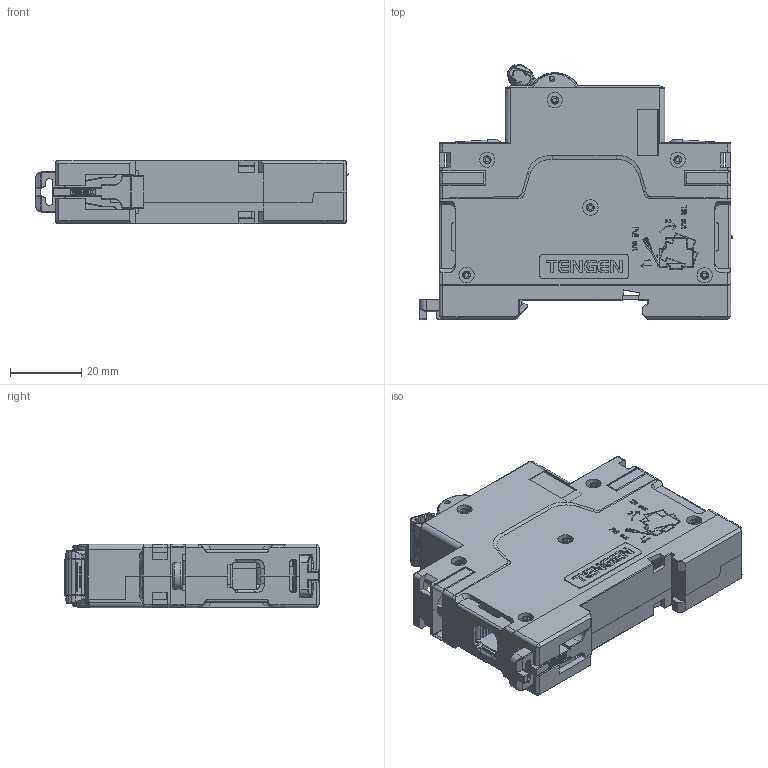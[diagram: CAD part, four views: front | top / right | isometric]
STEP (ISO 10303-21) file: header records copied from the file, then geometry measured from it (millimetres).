
FILE_DESCRIPTION((''),'2;1');
FILE_NAME('TENGEN_TGB3-63L_1P_ASM','2024-07-19T16:02:41',('Administrator'),(''),'CREO PARAMETRIC BY PTC INC, 2020354','CREO PARAMETRIC BY PTC INC, 2020354','');
FILE_SCHEMA(('CONFIG_CONTROL_DESIGN'));
Products named in the file (4): 2TZD_250_6081_SW0003_1_1_AF0; 2TZD_250_6081_SW0003_1_2; 2TZD_250_6081_SW0003_1_AF0_ASM; TENGEN_TGB3-63L_1P_ASM
Assembly tree (3 placements, depth 3):
  TENGEN_TGB3-63L_1P_ASM
    2TZD_250_6081_SW0003_1_AF0_ASM
      2TZD_250_6081_SW0003_1_1_AF0
      2TZD_250_6081_SW0003_1_2
Bounding box: 87.94 x 71.54 x 17.8 mm (x, y, z)
Volume: 16092 mm3; surface area: 47543.7 mm2
Topology: 5 solids, 7 shells, 6243 faces, 17125 edges, 10881 vertices
Faces by surface type: plane 4013, cylinder 1430, torus 239, sphere 184, bspline 161, extrusion 115, cone 101
Entity records: 205024 total; most frequent: CARTESIAN_POINT 47681, ORIENTED_EDGE 33890, DIRECTION 31235, EDGE_CURVE 16949, VECTOR 12493, LINE 12378, VERTEX_POINT 10881, AXIS2_PLACEMENT_3D 9371
